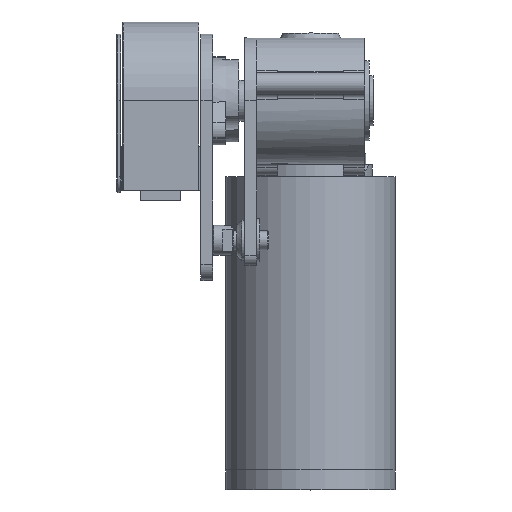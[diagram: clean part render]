
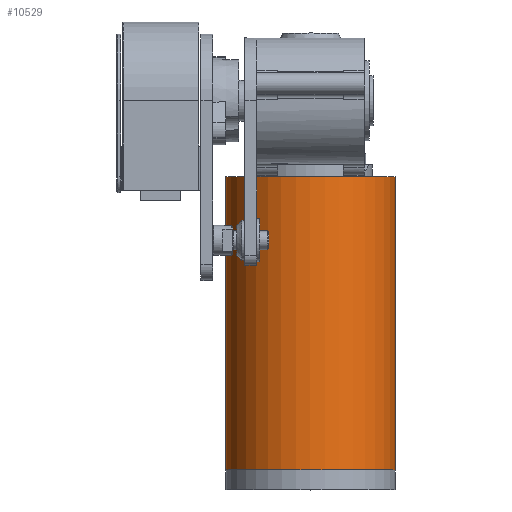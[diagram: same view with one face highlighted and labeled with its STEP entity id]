
A CAD part, top view. The second image highlights one B-rep face of the part: STEP entity #10529.
In plain terms, the highlighted cylindrical face has radius 42.5 mm (diameter 85 mm), a full revolution.
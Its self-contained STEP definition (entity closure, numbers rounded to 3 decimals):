
#899=CARTESIAN_POINT('',(8.369,-52.434,-960.425));
#900=VERTEX_POINT('',#899);
#901=CARTESIAN_POINT('',(8.367,-3.434,-960.425));
#902=VERTEX_POINT('',#901);
#903=CARTESIAN_POINT('',(8.369,-52.434,-960.425));
#904=DIRECTION('',(0.,1.,0.));
#905=VECTOR('',#904,49.);
#906=LINE('',#903,#905);
#907=EDGE_CURVE('',#900,#902,#906,.T.);
#939=CARTESIAN_POINT('',(4.369,-56.434,-963.625));
#940=VERTEX_POINT('',#939);
#941=CARTESIAN_POINT('',(4.369,-56.434,-963.625));
#942=CARTESIAN_POINT('',(4.896,-56.434,-963.253));
#943=CARTESIAN_POINT('',(5.453,-56.325,-962.84));
#944=CARTESIAN_POINT('',(6.481,-55.876,-962.04));
#945=CARTESIAN_POINT('',(6.953,-55.538,-961.653));
#946=CARTESIAN_POINT('',(7.623,-54.8,-961.086));
#947=CARTESIAN_POINT('',(7.895,-54.388,-960.848));
#948=CARTESIAN_POINT('',(8.268,-53.456,-960.516));
#949=CARTESIAN_POINT('',(8.369,-52.936,-960.425));
#950=CARTESIAN_POINT('',(8.369,-52.434,-960.425));
#951=B_SPLINE_CURVE_WITH_KNOTS('',3,(#941,#942,#943,#944,#945,#946,#947,#948,#949,#950),.UNSPECIFIED.,.F.,.U.,(4,2,2,2,4),(-0.688,-0.495,-0.301,-0.151,0.0),.UNSPECIFIED.);
#952=EDGE_CURVE('',#940,#900,#951,.T.);
#978=CARTESIAN_POINT('',(-44.631,-56.436,-963.625));
#979=VERTEX_POINT('',#978);
#980=CARTESIAN_POINT('',(-20.131,-56.435,-928.897));
#981=DIRECTION('',(0.,-1.,0.0));
#982=DIRECTION('',(0.0,0.0,1.0));
#983=AXIS2_PLACEMENT_3D('',#980,#981,#982);
#984=CIRCLE('',#983,42.5);
#985=EDGE_CURVE('',#979,#940,#984,.T.);
#1010=CARTESIAN_POINT('',(-48.631,-52.436,-960.425));
#1011=VERTEX_POINT('',#1010);
#1012=CARTESIAN_POINT('',(-48.631,-52.436,-960.425));
#1013=CARTESIAN_POINT('',(-48.631,-52.938,-960.425));
#1014=CARTESIAN_POINT('',(-48.531,-53.458,-960.516));
#1015=CARTESIAN_POINT('',(-48.157,-54.39,-960.848));
#1016=CARTESIAN_POINT('',(-47.885,-54.802,-961.086));
#1017=CARTESIAN_POINT('',(-47.215,-55.54,-961.653));
#1018=CARTESIAN_POINT('',(-46.743,-55.878,-962.04));
#1019=CARTESIAN_POINT('',(-45.715,-56.327,-962.84));
#1020=CARTESIAN_POINT('',(-45.158,-56.436,-963.253));
#1021=CARTESIAN_POINT('',(-44.631,-56.436,-963.625));
#1022=B_SPLINE_CURVE_WITH_KNOTS('',3,(#1012,#1013,#1014,#1015,#1016,#1017,#1018,#1019,#1020,#1021),.UNSPECIFIED.,.F.,.U.,(4,2,2,2,4),(1.348,1.499,1.649,1.843,2.036),.UNSPECIFIED.);
#1023=EDGE_CURVE('',#1011,#979,#1022,.T.);
#1835=CARTESIAN_POINT('',(-48.633,-3.436,-960.425));
#1836=VERTEX_POINT('',#1835);
#1837=CARTESIAN_POINT('',(-48.633,-3.436,-960.425));
#1838=DIRECTION('',(0.,-1.,0.));
#1839=VECTOR('',#1838,49.);
#1840=LINE('',#1837,#1839);
#1841=EDGE_CURVE('',#1836,#1011,#1840,.T.);
#1859=CARTESIAN_POINT('',(-44.633,0.564,-963.625));
#1860=VERTEX_POINT('',#1859);
#1861=CARTESIAN_POINT('',(-44.633,0.564,-963.625));
#1862=CARTESIAN_POINT('',(-45.13,0.564,-963.274));
#1863=CARTESIAN_POINT('',(-45.657,0.467,-962.885));
#1864=CARTESIAN_POINT('',(-46.638,0.066,-962.126));
#1865=CARTESIAN_POINT('',(-47.092,-0.238,-961.756));
#1866=CARTESIAN_POINT('',(-47.79,-0.935,-961.17));
#1867=CARTESIAN_POINT('',(-48.095,-1.363,-960.904));
#1868=CARTESIAN_POINT('',(-48.518,-2.343,-960.53));
#1869=CARTESIAN_POINT('',(-48.633,-2.896,-960.425));
#1870=CARTESIAN_POINT('',(-48.633,-3.436,-960.425));
#1871=B_SPLINE_CURVE_WITH_KNOTS('',3,(#1861,#1862,#1863,#1864,#1865,#1866,#1867,#1868,#1869,#1870),.UNSPECIFIED.,.F.,.U.,(4,2,2,2,4),(0.66,0.842,1.024,1.186,1.348),.UNSPECIFIED.);
#1872=EDGE_CURVE('',#1860,#1836,#1871,.T.);
#1890=CARTESIAN_POINT('',(4.367,0.566,-963.625));
#1891=VERTEX_POINT('',#1890);
#1892=CARTESIAN_POINT('',(-20.133,0.565,-928.897));
#1893=DIRECTION('',(0.,1.,0.0));
#1894=DIRECTION('',(0.0,0.0,1.0));
#1895=AXIS2_PLACEMENT_3D('',#1892,#1893,#1894);
#1896=CIRCLE('',#1895,42.5);
#1897=EDGE_CURVE('',#1891,#1860,#1896,.T.);
#1915=CARTESIAN_POINT('',(8.367,-3.434,-960.425));
#1916=CARTESIAN_POINT('',(8.367,-2.894,-960.425));
#1917=CARTESIAN_POINT('',(8.251,-2.34,-960.53));
#1918=CARTESIAN_POINT('',(7.829,-1.361,-960.904));
#1919=CARTESIAN_POINT('',(7.524,-0.933,-961.17));
#1920=CARTESIAN_POINT('',(6.826,-0.236,-961.756));
#1921=CARTESIAN_POINT('',(6.372,0.068,-962.126));
#1922=CARTESIAN_POINT('',(5.391,0.469,-962.885));
#1923=CARTESIAN_POINT('',(4.863,0.566,-963.274));
#1924=CARTESIAN_POINT('',(4.367,0.566,-963.625));
#1925=B_SPLINE_CURVE_WITH_KNOTS('',3,(#1915,#1916,#1917,#1918,#1919,#1920,#1921,#1922,#1923,#1924),.UNSPECIFIED.,.F.,.U.,(4,2,2,2,4),(0.0,0.162,0.324,0.506,0.688),.UNSPECIFIED.);
#1926=EDGE_CURVE('',#902,#1891,#1925,.T.);
#10440=CARTESIAN_POINT('',(-20.136,83.065,-971.397));
#10441=VERTEX_POINT('',#10440);
#10442=CARTESIAN_POINT('',(-20.136,83.065,-928.897));
#10443=DIRECTION('',(0.,-1.,0.0));
#10444=DIRECTION('',(0.0,0.0,1.0));
#10445=AXIS2_PLACEMENT_3D('',#10442,#10443,#10444);
#10446=CIRCLE('',#10445,42.5);
#10447=EDGE_CURVE('',#10441,#10441,#10446,.T.);
#10493=CARTESIAN_POINT('',(-20.131,-63.935,-886.397));
#10494=VERTEX_POINT('',#10493);
#10495=CARTESIAN_POINT('',(-20.131,-63.935,-928.897));
#10496=DIRECTION('',(0.,1.,0.0));
#10497=DIRECTION('',(0.0,0.0,1.0));
#10498=AXIS2_PLACEMENT_3D('',#10495,#10496,#10497);
#10499=CIRCLE('',#10498,42.5);
#10500=EDGE_CURVE('',#10494,#10494,#10499,.T.);
#10508=CARTESIAN_POINT('',(-20.136,83.065,-928.897));
#10509=DIRECTION('',(0.,-1.,0.));
#10510=DIRECTION('',(0.0,0.0,1.0));
#10511=AXIS2_PLACEMENT_3D('',#10508,#10509,#10510);
#10512=CYLINDRICAL_SURFACE('',#10511,42.5);
#10513=ORIENTED_EDGE('',*,*,#1023,.T.);
#10514=ORIENTED_EDGE('',*,*,#985,.T.);
#10515=ORIENTED_EDGE('',*,*,#952,.T.);
#10516=ORIENTED_EDGE('',*,*,#907,.T.);
#10517=ORIENTED_EDGE('',*,*,#1926,.T.);
#10518=ORIENTED_EDGE('',*,*,#1897,.T.);
#10519=ORIENTED_EDGE('',*,*,#1872,.T.);
#10520=ORIENTED_EDGE('',*,*,#1841,.T.);
#10521=EDGE_LOOP('',(#10513,#10514,#10515,#10516,#10517,#10518,#10519,#10520));
#10522=FACE_OUTER_BOUND('',#10521,.T.);
#10523=ORIENTED_EDGE('',*,*,#10500,.T.);
#10524=EDGE_LOOP('',(#10523));
#10525=FACE_BOUND('',#10524,.T.);
#10526=ORIENTED_EDGE('',*,*,#10447,.T.);
#10527=EDGE_LOOP('',(#10526));
#10528=FACE_BOUND('',#10527,.T.);
#10529=ADVANCED_FACE('',(#10522,#10525,#10528),#10512,.T.);
